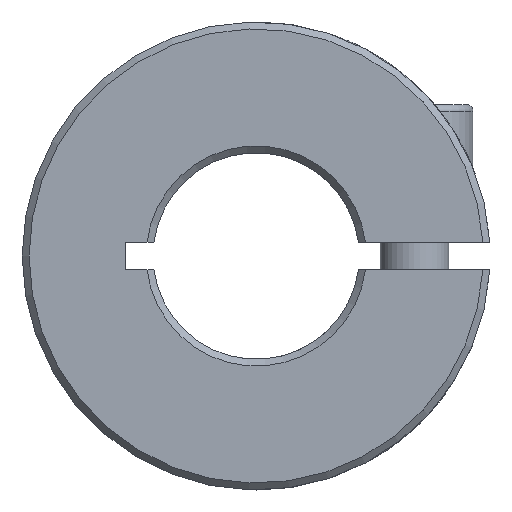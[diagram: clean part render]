
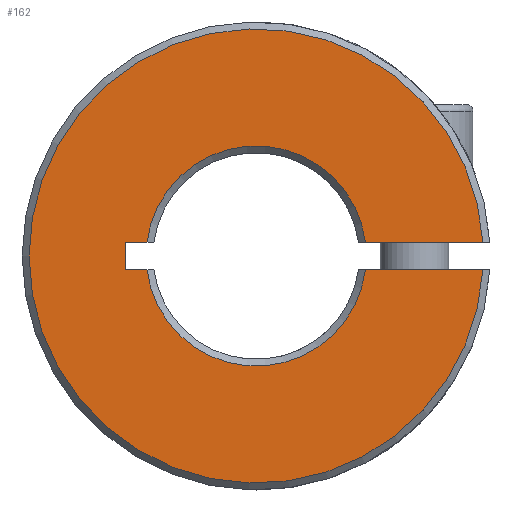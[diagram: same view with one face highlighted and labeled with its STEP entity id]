
A CAD part, front view. The second image highlights one B-rep face of the part: STEP entity #162.
In plain terms, the highlighted planar face has unit normal (0, -1, 0).
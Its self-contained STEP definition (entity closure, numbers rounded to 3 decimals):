
#162 = ADVANCED_FACE( '', ( #333 ), #334, .F. );
#333 = FACE_OUTER_BOUND( '', #565, .T. );
#334 = PLANE( '', #566 );
#565 = EDGE_LOOP( '', ( #805, #806, #807, #808, #809, #810, #811, #812 ) );
#566 = AXIS2_PLACEMENT_3D( '', #813, #814, #815 );
#805 = ORIENTED_EDGE( '', *, *, #1288, .T. );
#806 = ORIENTED_EDGE( '', *, *, #1289, .T. );
#807 = ORIENTED_EDGE( '', *, *, #1290, .T. );
#808 = ORIENTED_EDGE( '', *, *, #1291, .T. );
#809 = ORIENTED_EDGE( '', *, *, #1292, .F. );
#810 = ORIENTED_EDGE( '', *, *, #1293, .T. );
#811 = ORIENTED_EDGE( '', *, *, #1294, .F. );
#812 = ORIENTED_EDGE( '', *, *, #1295, .F. );
#813 = CARTESIAN_POINT( '', ( 0., -50., 0. ) );
#814 = DIRECTION( '', ( 0., 1., 0. ) );
#815 = DIRECTION( '', ( 0., 0., 1. ) );
#1288 = EDGE_CURVE( '', #1490, #1491, #1492, .T. );
#1289 = EDGE_CURVE( '', #1491, #1493, #1494, .T. );
#1290 = EDGE_CURVE( '', #1493, #1495, #1496, .T. );
#1291 = EDGE_CURVE( '', #1495, #1497, #1498, .F. );
#1292 = EDGE_CURVE( '', #1499, #1497, #1500, .T. );
#1293 = EDGE_CURVE( '', #1499, #1501, #1502, .T. );
#1294 = EDGE_CURVE( '', #1503, #1501, #1504, .T. );
#1295 = EDGE_CURVE( '', #1490, #1503, #1505, .T. );
#1490 = VERTEX_POINT( '', #1797 );
#1491 = VERTEX_POINT( '', #1798 );
#1492 = LINE( '', #1799, #1800 );
#1493 = VERTEX_POINT( '', #1801 );
#1494 = CIRCLE( '', #1802, 8. );
#1495 = VERTEX_POINT( '', #1803 );
#1496 = LINE( '', #1804, #1805 );
#1497 = VERTEX_POINT( '', #1806 );
#1498 = CIRCLE( '', #1807, 16.5 );
#1499 = VERTEX_POINT( '', #1808 );
#1500 = LINE( '', #1809, #1810 );
#1501 = VERTEX_POINT( '', #1811 );
#1502 = CIRCLE( '', #1812, 8. );
#1503 = VERTEX_POINT( '', #1813 );
#1504 = LINE( '', #1814, #1815 );
#1505 = LINE( '', #1816, #1817 );
#1797 = CARTESIAN_POINT( '', ( -9.5, -50., 1. ) );
#1798 = CARTESIAN_POINT( '', ( -7.937, -50., 1. ) );
#1799 = CARTESIAN_POINT( '', ( 0., -50., 1. ) );
#1800 = VECTOR( '', #2628, 1000. );
#1801 = CARTESIAN_POINT( '', ( 7.937, -50., 1. ) );
#1802 = AXIS2_PLACEMENT_3D( '', #2629, #2630, #2631 );
#1803 = CARTESIAN_POINT( '', ( 16.47, -50., 1. ) );
#1804 = CARTESIAN_POINT( '', ( 0., -50., 1. ) );
#1805 = VECTOR( '', #2632, 1000. );
#1806 = CARTESIAN_POINT( '', ( 16.47, -50., -1. ) );
#1807 = AXIS2_PLACEMENT_3D( '', #2633, #2634, #2635 );
#1808 = CARTESIAN_POINT( '', ( 7.937, -50., -1. ) );
#1809 = CARTESIAN_POINT( '', ( 0., -50., -1. ) );
#1810 = VECTOR( '', #2636, 1000. );
#1811 = CARTESIAN_POINT( '', ( -7.937, -50., -1. ) );
#1812 = AXIS2_PLACEMENT_3D( '', #2637, #2638, #2639 );
#1813 = CARTESIAN_POINT( '', ( -9.5, -50., -1. ) );
#1814 = CARTESIAN_POINT( '', ( 0., -50., -1. ) );
#1815 = VECTOR( '', #2640, 1000. );
#1816 = CARTESIAN_POINT( '', ( -9.5, -50., 0. ) );
#1817 = VECTOR( '', #2641, 1000. );
#2628 = DIRECTION( '', ( 1., 0., 0. ) );
#2629 = CARTESIAN_POINT( '', ( 0., -50., 0. ) );
#2630 = DIRECTION( '', ( 0., 1., 0. ) );
#2631 = DIRECTION( '', ( 0., 0., 1. ) );
#2632 = DIRECTION( '', ( 1., 0., 0. ) );
#2633 = CARTESIAN_POINT( '', ( 0., -50., 0. ) );
#2634 = DIRECTION( '', ( 0., 1., 0. ) );
#2635 = DIRECTION( '', ( 0., 0., 1. ) );
#2636 = DIRECTION( '', ( 1., 0., 0. ) );
#2637 = CARTESIAN_POINT( '', ( 0., -50., 0. ) );
#2638 = DIRECTION( '', ( 0., 1., 0. ) );
#2639 = DIRECTION( '', ( 0., 0., 1. ) );
#2640 = DIRECTION( '', ( 1., 0., 0. ) );
#2641 = DIRECTION( '', ( 0., 0., -1. ) );
